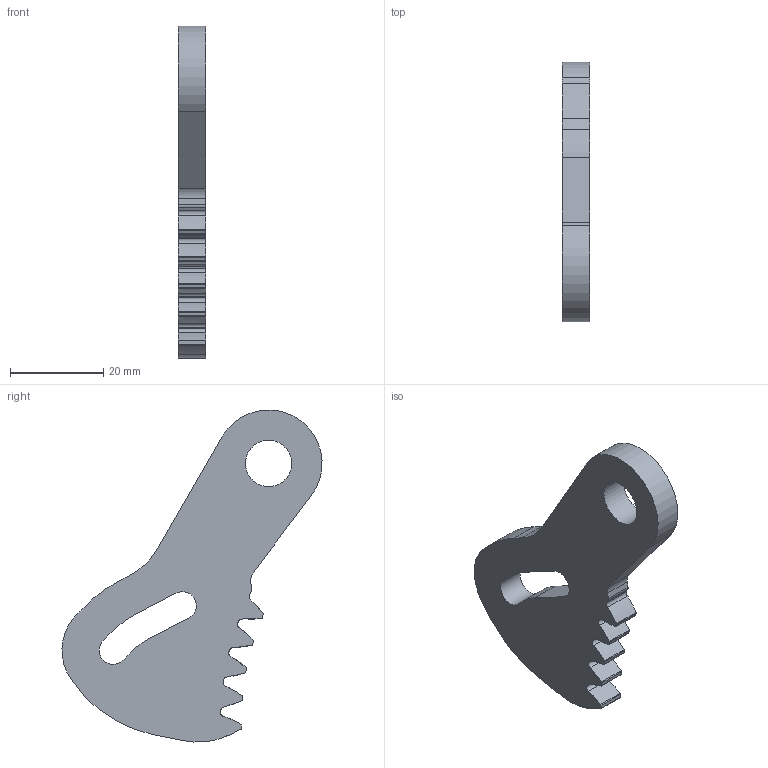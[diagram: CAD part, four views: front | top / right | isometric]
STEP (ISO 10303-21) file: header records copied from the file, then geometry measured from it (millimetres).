
FILE_DESCRIPTION(('CATIA V5 STEP Exchange'),'2;1');
FILE_NAME('D:\Program Files\feiq\AutoRecv Files\赵磊(74D435BB3F1F)\2020-03-02 08_44_33\2020-20191115\3.0骨架图纸\初版确认后图纸——付园\外发版图纸\北京开发钣金件\SHT0010128-仰角锁止齿板\SHT0010128.stp','2020-03-14T09:17:29+00:00',('none'),('none'),'CATIA Version 5 Release 20 GA (IN-10)','CATIA V5 STEP AP214','none');
FILE_SCHEMA(('AUTOMOTIVE_DESIGN { 1 0 10303 214 1 1 1 1 }'));
Length unit declared in the file: millimetre
Products named in the file (1): SHT0010128
Bounding box: 6 x 55.91 x 71.39 mm (x, y, z)
Volume: 10620.6 mm3; surface area: 5403.2 mm2
Topology: 1 solids, 1 shells, 67 faces, 195 edges, 130 vertices
Faces by surface type: cylinder 47, extrusion 10, plane 10
Entity records: 2214 total; most frequent: CARTESIAN_POINT 476, ORIENTED_EDGE 390, DIRECTION 285, EDGE_CURVE 195, AXIS2_PLACEMENT_3D 145, VERTEX_POINT 130, CIRCLE 94, VECTOR 91
